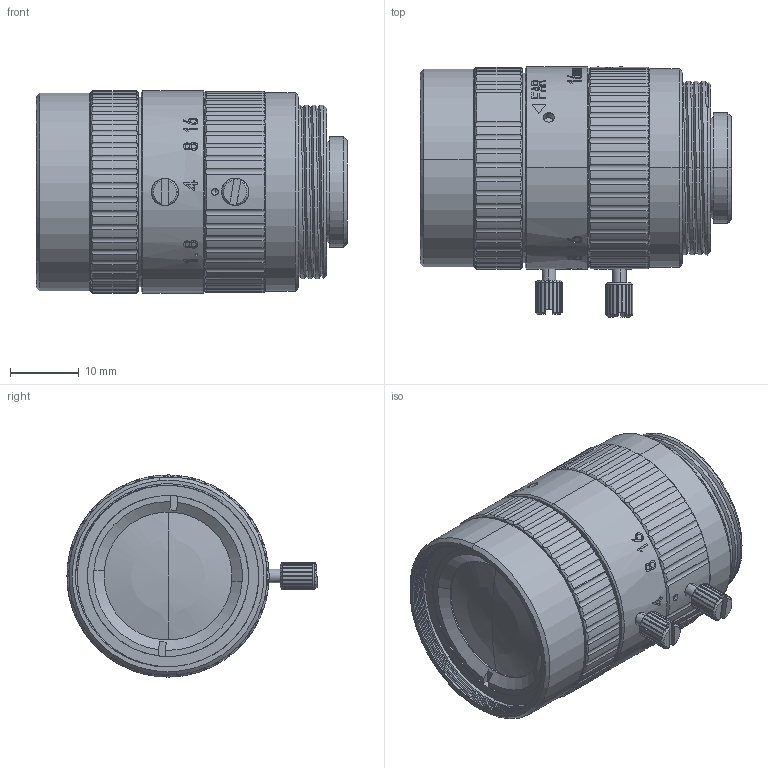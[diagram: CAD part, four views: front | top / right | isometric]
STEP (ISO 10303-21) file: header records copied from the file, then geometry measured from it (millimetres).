
FILE_DESCRIPTION (( 'STEP AP203' ), '1' );
FILE_NAME ('FAU1618MC.HR-H，无穷远-.STEP', '2025-11-03T06:53:05', ( '' ), ( '' ), 'SwSTEP 2.0', 'SolidWorks 2019', '' );
FILE_SCHEMA (( 'CONFIG_CONTROL_DESIGN' ));
Length unit declared in the file: millimetre
Products named in the file (1): FAU1618MC.HR-H，无穷远-
Bounding box: 45.5 x 36.5 x 29.5 mm (x, y, z)
Volume: 26634.4 mm3; surface area: 8148 mm2
Topology: 1 solids, 3 shells, 812 faces, 2232 edges, 1478 vertices
Faces by surface type: cylinder 349, plane 315, bspline 108, cone 34, sphere 6
Entity records: 41636 total; most frequent: CARTESIAN_POINT 22439, ORIENTED_EDGE 4448, DIRECTION 3341, EDGE_CURVE 2224, VERTEX_POINT 1476, AXIS2_PLACEMENT_3D 1294, EDGE_LOOP 886, B_SPLINE_CURVE_WITH_KNOTS 844
